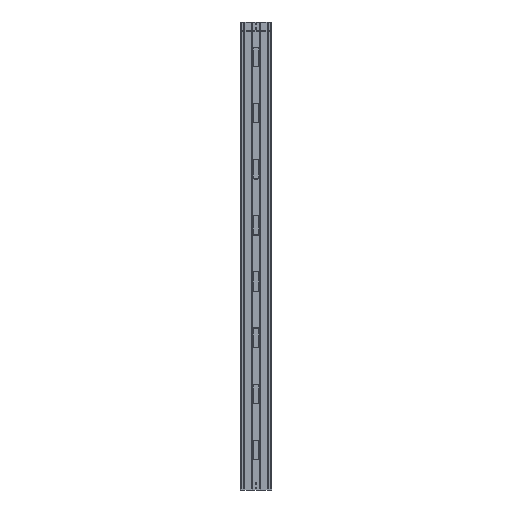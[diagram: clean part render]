
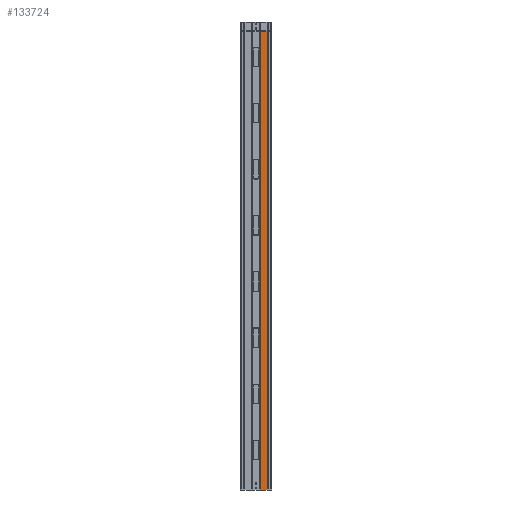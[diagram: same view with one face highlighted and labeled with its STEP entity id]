
A CAD part, front view. The second image highlights one B-rep face of the part: STEP entity #133724.
In plain terms, the highlighted planar face has unit normal (0, -1, 0).
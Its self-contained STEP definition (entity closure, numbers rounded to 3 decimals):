
#6662 = VERTEX_POINT ( 'NONE', #120922 ) ;
#34437 = DIRECTION ( 'NONE',  ( 0., 0., 1. ) ) ;
#53883 = DIRECTION ( 'NONE',  ( 1., 0., 0. ) ) ;
#71847 = ORIENTED_EDGE ( 'NONE', *, *, #100873, .F. ) ;
#74933 = VERTEX_POINT ( 'NONE', #83035 ) ;
#75003 = AXIS2_PLACEMENT_3D ( 'NONE', #223923, #197289, #325603 ) ;
#83035 = CARTESIAN_POINT ( 'NONE',  ( 29.456, 0., 0. ) ) ;
#97086 = EDGE_CURVE ( 'NONE', #74933, #100731, #214169, .T. ) ;
#100731 = VERTEX_POINT ( 'NONE', #309707 ) ;
#100873 = EDGE_CURVE ( 'NONE', #6662, #74933, #266230, .T. ) ;
#102298 = LINE ( 'NONE', #153947, #225098 ) ;
#112716 = CARTESIAN_POINT ( 'NONE',  ( 56.848, 0., 0. ) ) ;
#115995 = CARTESIAN_POINT ( 'NONE',  ( 43.152, 0., 0. ) ) ;
#120922 = CARTESIAN_POINT ( 'NONE',  ( 29.456, 0., -2941.5 ) ) ;
#123475 = VECTOR ( 'NONE', #34437, 1000. ) ;
#133724 = ADVANCED_FACE ( 'NONE', ( #220684 ), #222282, .T. ) ;
#137697 = CARTESIAN_POINT ( 'NONE',  ( 70.544, 0., 0. ) ) ;
#150018 = VECTOR ( 'NONE', #191229, 1000. ) ;
#153947 = CARTESIAN_POINT ( 'NONE',  ( 70.544, 0., -2941.5 ) ) ;
#154590 = EDGE_CURVE ( 'NONE', #219866, #100731, #159481, .T. ) ;
#159481 = LINE ( 'NONE', #264446, #123475 ) ;
#164014 = ORIENTED_EDGE ( 'NONE', *, *, #154590, .T. ) ;
#167495 = EDGE_LOOP ( 'NONE', ( #185815, #71847, #301130, #164014 ) ) ;
#185815 = ORIENTED_EDGE ( 'NONE', *, *, #97086, .F. ) ;
#191229 = DIRECTION ( 'NONE',  ( 0., 0., 1. ) ) ;
#197289 = DIRECTION ( 'NONE',  ( 0., -1., 0. ) ) ;
#214169 = B_SPLINE_CURVE_WITH_KNOTS ( 'NONE', 3,
 ( #216031, #115995, #112716, #137697 ),
 .UNSPECIFIED., .F., .F.,
 ( 4, 4 ),
 ( 0., 1. ),
 .UNSPECIFIED. ) ;
#216031 = CARTESIAN_POINT ( 'NONE',  ( 29.456, 0., 0. ) ) ;
#219866 = VERTEX_POINT ( 'NONE', #232203 ) ;
#220684 = FACE_OUTER_BOUND ( 'NONE', #167495, .T. ) ;
#222282 = PLANE ( 'NONE',  #75003 ) ;
#223923 = CARTESIAN_POINT ( 'NONE',  ( 70.544, 0., -2941.5 ) ) ;
#225098 = VECTOR ( 'NONE', #53883, 1000. ) ;
#232203 = CARTESIAN_POINT ( 'NONE',  ( 70.544, 0., -2941.5 ) ) ;
#263135 = EDGE_CURVE ( 'NONE', #6662, #219866, #102298, .T. ) ;
#264446 = CARTESIAN_POINT ( 'NONE',  ( 70.544, 0., -2941.5 ) ) ;
#266230 = LINE ( 'NONE', #317879, #150018 ) ;
#301130 = ORIENTED_EDGE ( 'NONE', *, *, #263135, .T. ) ;
#309707 = CARTESIAN_POINT ( 'NONE',  ( 70.544, 0., 0. ) ) ;
#317879 = CARTESIAN_POINT ( 'NONE',  ( 29.456, 0., -2941.5 ) ) ;
#325603 = DIRECTION ( 'NONE',  ( 1., 0., 0. ) ) ;
